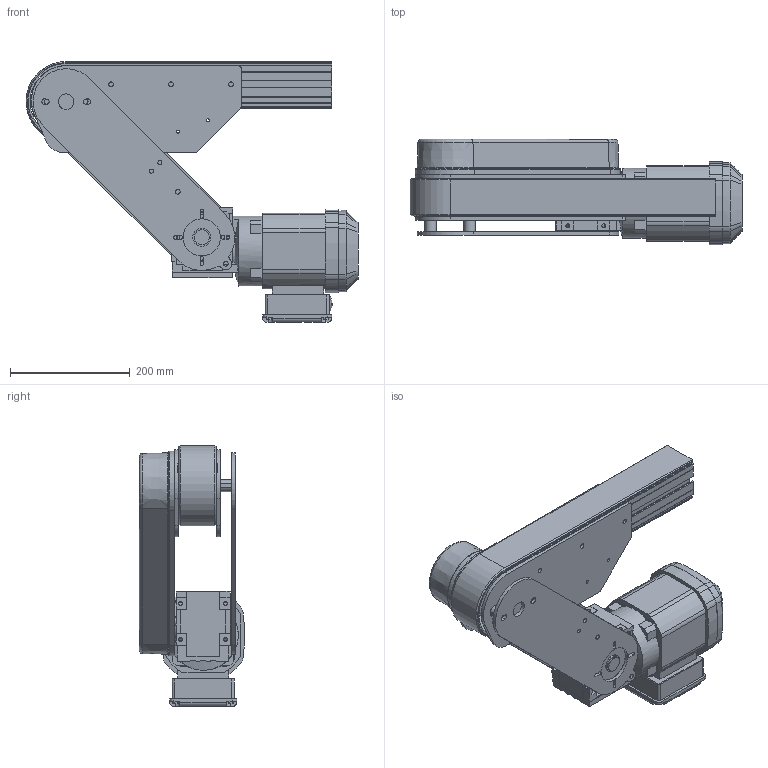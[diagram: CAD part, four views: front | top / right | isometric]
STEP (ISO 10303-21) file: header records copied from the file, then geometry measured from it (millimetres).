
FILE_DESCRIPTION((''),'2;1');
FILE_NAME('C:\Vault Klient\Projekt\Koncept konstruktion\Serie 620 Drivenhet\620-324H.stp','2010-05-24T14:01:11',('Mathias'),(''),'Autodesk Inventor 2010','Autodesk Inventor 2010','');
FILE_SCHEMA(('CONFIG_CONTROL_DESIGN'));
Length unit declared in the file: millimetre
Products named in the file (6): 620-324H; Serie 620 Drivände; 900-3120; 900-4030; 900-2260; 300-4010
Assembly tree (7 placements, depth 2):
  620-324H
    Serie 620 Drivände
    900-3120  x2
    900-4030
    900-2260
    300-4010  x2
Bounding box: 553.72 x 175.64 x 435.27 mm (x, y, z)
Volume: 7693828 mm3; surface area: 980371.9 mm2
Topology: 7 solids, 10 shells, 726 faces, 1999 edges, 1306 vertices
Faces by surface type: plane 421, cylinder 261, bspline 20, cone 16, torus 6, sphere 2
Full cylindrical faces by diameter (mm): 5 x4, 6 x9, 6.6 x8, 6.912 x4, 8 x16, 20 x1, 25 x1, 26 x4, 28 x1, 30 x2, 62 x2, 117 x1
Entity records: 22825 total; most frequent: CARTESIAN_POINT 4407, DIRECTION 3661, ORIENTED_EDGE 3636, EDGE_CURVE 1818, VECTOR 1231, LINE 1231, VERTEX_POINT 1217, AXIS2_PLACEMENT_3D 1215
